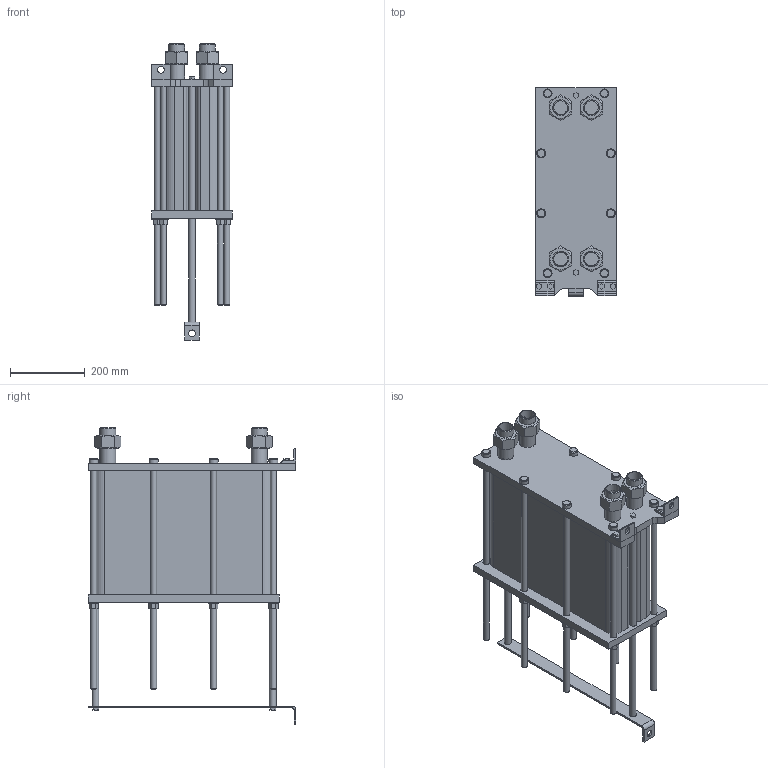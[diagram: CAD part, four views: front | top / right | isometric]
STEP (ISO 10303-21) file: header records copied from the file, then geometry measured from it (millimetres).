
FILE_DESCRIPTION(/* description */ (''),/* implementation_level */ '2;1');
FILE_NAME(/* name */ 'C:\Users\zhuro\Desktop\ENCO\TO\ЭН-004\ЭН-0,5-004-107-1.stp',/* time_stamp */ '2022-06-06T10:53:10+03:00',/* author */ ('zhuro'),/* organization */ (''),/* preprocessor_version */ 'ST-DEVELOPER v18.1',/* originating_system */ 'Autodesk Inventor 2022',/* authorisation */ '');
FILE_SCHEMA (('AUTOMOTIVE_DESIGN { 1 0 10303 214 3 1 1 }'));
Length unit declared in the file: millimetre
Products named in the file (1): ЭН-0,5-004-107-1
Bounding box: 216 x 555 x 790.6 mm (x, y, z)
Volume: 30655338.8 mm3; surface area: 1676852.5 mm2
Topology: 40 solids, 40 shells, 403 faces, 865 edges, 574 vertices
Faces by surface type: plane 272, cylinder 103, cone 28
Full cylindrical faces by diameter (mm): 10 x4, 16 x16, 18 x29, 20 x2, 24 x8, 28 x8, 36.3 x5, 42.3 x9
Entity records: 11137 total; most frequent: CARTESIAN_POINT 1939, DIRECTION 1879, ORIENTED_EDGE 1730, EDGE_CURVE 865, AXIS2_PLACEMENT_3D 658, VERTEX_POINT 574, LINE 563, VECTOR 563
